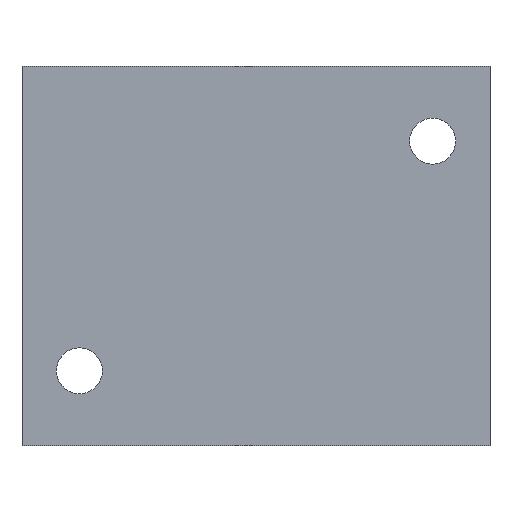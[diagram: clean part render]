
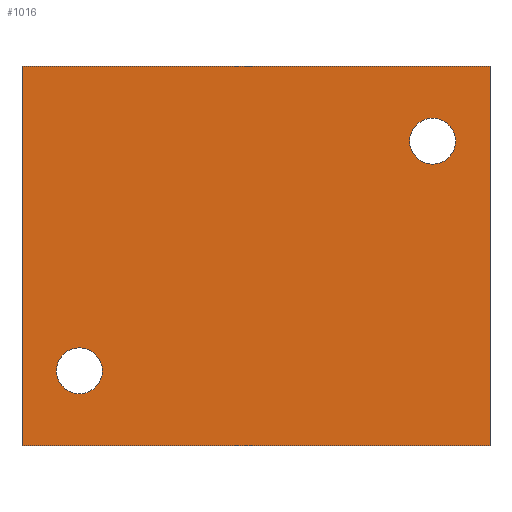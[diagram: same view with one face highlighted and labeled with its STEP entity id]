
A CAD part, front view. The second image highlights one B-rep face of the part: STEP entity #1016.
In plain terms, the highlighted planar face has unit normal (0, -1, 0).
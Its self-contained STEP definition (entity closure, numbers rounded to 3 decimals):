
#8 = CIRCLE ( 'NONE', #916, 2.6 ) ;
#28 = CARTESIAN_POINT ( 'NONE',  ( -20., -17.5, -10.4 ) ) ;
#51 = EDGE_CURVE ( 'NONE', #928, #352, #8, .T. ) ;
#52 = DIRECTION ( 'NONE',  ( 0., 0., -1. ) ) ;
#89 = CARTESIAN_POINT ( 'NONE',  ( 20., -17.5, 13. ) ) ;
#90 = EDGE_LOOP ( 'NONE', ( #1035, #989, #436, #554 ) ) ;
#145 = CIRCLE ( 'NONE', #791, 2.6 ) ;
#179 = VERTEX_POINT ( 'NONE', #443 ) ;
#209 = CIRCLE ( 'NONE', #410, 2.6 ) ;
#221 = EDGE_CURVE ( 'NONE', #895, #179, #1504, .T. ) ;
#226 = CARTESIAN_POINT ( 'NONE',  ( -26.5, -17.5, 21.5 ) ) ;
#241 = LINE ( 'NONE', #976, #1050 ) ;
#326 = DIRECTION ( 'NONE',  ( 1., 0., 0. ) ) ;
#339 = FACE_BOUND ( 'NONE', #1211, .T. ) ;
#352 = VERTEX_POINT ( 'NONE', #724 ) ;
#355 = DIRECTION ( 'NONE',  ( 0., 1., 0. ) ) ;
#389 = CARTESIAN_POINT ( 'NONE',  ( -26.5, -17.5, 21.5 ) ) ;
#410 = AXIS2_PLACEMENT_3D ( 'NONE', #89, #1307, #1203 ) ;
#436 = ORIENTED_EDGE ( 'NONE', *, *, #221, .F. ) ;
#443 = CARTESIAN_POINT ( 'NONE',  ( 26.5, -17.5, 21.5 ) ) ;
#474 = DIRECTION ( 'NONE',  ( 1., 0., 0. ) ) ;
#492 = CARTESIAN_POINT ( 'NONE',  ( -26.5, -17.5, 21.5 ) ) ;
#538 = CARTESIAN_POINT ( 'NONE',  ( -20., -17.5, -13. ) ) ;
#545 = EDGE_CURVE ( 'NONE', #352, #928, #209, .T. ) ;
#546 = DIRECTION ( 'NONE',  ( 0., -1., 0. ) ) ;
#554 = ORIENTED_EDGE ( 'NONE', *, *, #559, .T. ) ;
#559 = EDGE_CURVE ( 'NONE', #895, #1279, #1446, .T. ) ;
#613 = FACE_OUTER_BOUND ( 'NONE', #90, .T. ) ;
#641 = FACE_BOUND ( 'NONE', #1521, .T. ) ;
#676 = AXIS2_PLACEMENT_3D ( 'NONE', #538, #546, #1125 ) ;
#695 = DIRECTION ( 'NONE',  ( 0., -1., 0. ) ) ;
#724 = CARTESIAN_POINT ( 'NONE',  ( 20., -17.5, 15.6 ) ) ;
#739 = CARTESIAN_POINT ( 'NONE',  ( -20., -17.5, -15.6 ) ) ;
#791 = AXIS2_PLACEMENT_3D ( 'NONE', #1161, #695, #52 ) ;
#800 = ORIENTED_EDGE ( 'NONE', *, *, #51, .F. ) ;
#863 = EDGE_CURVE ( 'NONE', #1538, #980, #1354, .T. ) ;
#867 = DIRECTION ( 'NONE',  ( 0., 0., -1. ) ) ;
#895 = VERTEX_POINT ( 'NONE', #389 ) ;
#916 = AXIS2_PLACEMENT_3D ( 'NONE', #1383, #1367, #996 ) ;
#928 = VERTEX_POINT ( 'NONE', #1389 ) ;
#976 = CARTESIAN_POINT ( 'NONE',  ( 26.5, -17.5, 21.5 ) ) ;
#980 = VERTEX_POINT ( 'NONE', #28 ) ;
#989 = ORIENTED_EDGE ( 'NONE', *, *, #1034, .F. ) ;
#996 = DIRECTION ( 'NONE',  ( 0., 0., -1. ) ) ;
#1016 = ADVANCED_FACE ( 'NONE', ( #641, #613, #339 ), #1459, .F. ) ;
#1030 = VERTEX_POINT ( 'NONE', #1313 ) ;
#1034 = EDGE_CURVE ( 'NONE', #179, #1030, #241, .T. ) ;
#1035 = ORIENTED_EDGE ( 'NONE', *, *, #1055, .T. ) ;
#1050 = VECTOR ( 'NONE', #867, 1000. ) ;
#1055 = EDGE_CURVE ( 'NONE', #1279, #1030, #1569, .T. ) ;
#1100 = VECTOR ( 'NONE', #1437, 1000. ) ;
#1125 = DIRECTION ( 'NONE',  ( 0., 0., -1. ) ) ;
#1149 = CARTESIAN_POINT ( 'NONE',  ( -26.5, -17.5, 21.5 ) ) ;
#1161 = CARTESIAN_POINT ( 'NONE',  ( -20., -17.5, -13. ) ) ;
#1203 = DIRECTION ( 'NONE',  ( 0., 0., -1. ) ) ;
#1211 = EDGE_LOOP ( 'NONE', ( #800, #1308 ) ) ;
#1221 = VECTOR ( 'NONE', #474, 1000. ) ;
#1262 = VECTOR ( 'NONE', #326, 1000. ) ;
#1267 = AXIS2_PLACEMENT_3D ( 'NONE', #492, #355, #1349 ) ;
#1279 = VERTEX_POINT ( 'NONE', #1424 ) ;
#1283 = ORIENTED_EDGE ( 'NONE', *, *, #1414, .F. ) ;
#1307 = DIRECTION ( 'NONE',  ( 0., -1., 0. ) ) ;
#1308 = ORIENTED_EDGE ( 'NONE', *, *, #545, .F. ) ;
#1313 = CARTESIAN_POINT ( 'NONE',  ( 26.5, -17.5, -21.5 ) ) ;
#1349 = DIRECTION ( 'NONE',  ( 0., 0., 1. ) ) ;
#1354 = CIRCLE ( 'NONE', #676, 2.6 ) ;
#1367 = DIRECTION ( 'NONE',  ( 0., -1., 0. ) ) ;
#1383 = CARTESIAN_POINT ( 'NONE',  ( 20., -17.5, 13. ) ) ;
#1389 = CARTESIAN_POINT ( 'NONE',  ( 20., -17.5, 10.4 ) ) ;
#1414 = EDGE_CURVE ( 'NONE', #980, #1538, #145, .T. ) ;
#1424 = CARTESIAN_POINT ( 'NONE',  ( -26.5, -17.5, -21.5 ) ) ;
#1437 = DIRECTION ( 'NONE',  ( 0., 0., -1. ) ) ;
#1446 = LINE ( 'NONE', #226, #1100 ) ;
#1453 = ORIENTED_EDGE ( 'NONE', *, *, #863, .F. ) ;
#1459 = PLANE ( 'NONE',  #1267 ) ;
#1504 = LINE ( 'NONE', #1149, #1262 ) ;
#1521 = EDGE_LOOP ( 'NONE', ( #1453, #1283 ) ) ;
#1538 = VERTEX_POINT ( 'NONE', #739 ) ;
#1560 = CARTESIAN_POINT ( 'NONE',  ( -26.5, -17.5, -21.5 ) ) ;
#1569 = LINE ( 'NONE', #1560, #1221 ) ;
